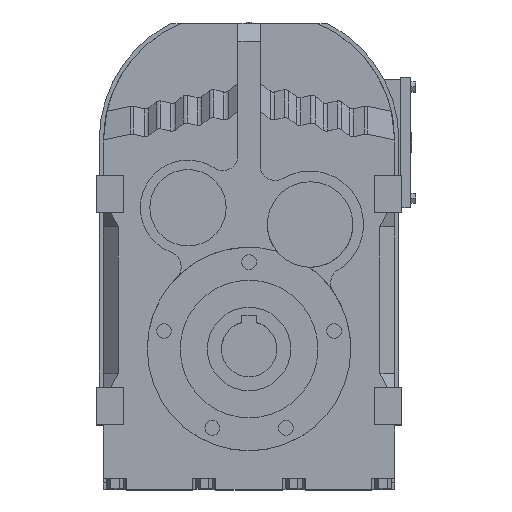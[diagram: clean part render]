
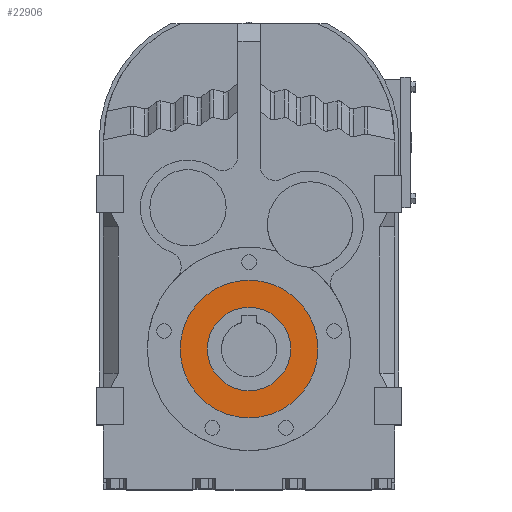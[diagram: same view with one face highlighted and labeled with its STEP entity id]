
A CAD part, top view. The second image highlights one B-rep face of the part: STEP entity #22906.
In plain terms, the highlighted planar face has unit normal (0, 0, 1).
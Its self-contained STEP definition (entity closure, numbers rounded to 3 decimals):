
#21474 = CYLINDRICAL_SURFACE('',#21475,37.2);
#21475 = AXIS2_PLACEMENT_3D('',#21476,#21477,#21478);
#21476 = CARTESIAN_POINT('',(0.,-112.,110.123));
#21477 = DIRECTION('',(0.,0.,1.));
#21478 = DIRECTION('',(1.,0.,0.));
#21500 = CYLINDRICAL_SURFACE('',#21501,37.2);
#21501 = AXIS2_PLACEMENT_3D('',#21502,#21503,#21504);
#21502 = CARTESIAN_POINT('',(0.,-112.,110.123));
#21503 = DIRECTION('',(0.,0.,1.));
#21504 = DIRECTION('',(1.,0.,0.));
#21992 = CYLINDRICAL_SURFACE('',#21993,22.5);
#21993 = AXIS2_PLACEMENT_3D('',#21994,#21995,#21996);
#21994 = CARTESIAN_POINT('',(0.,-112.,110.123));
#21995 = DIRECTION('',(0.,0.,1.));
#21996 = DIRECTION('',(1.,0.,0.));
#22022 = CYLINDRICAL_SURFACE('',#22023,22.5);
#22023 = AXIS2_PLACEMENT_3D('',#22024,#22025,#22026);
#22024 = CARTESIAN_POINT('',(0.,-112.,110.123));
#22025 = DIRECTION('',(0.,0.,1.));
#22026 = DIRECTION('',(1.,0.,0.));
#22204 = VERTEX_POINT('',#22205);
#22205 = CARTESIAN_POINT('',(-37.2,-112.,106.));
#22226 = VERTEX_POINT('',#22227);
#22227 = CARTESIAN_POINT('',(37.2,-112.,106.));
#22246 = EDGE_CURVE('',#22226,#22204,#22247,.T.);
#22247 = SURFACE_CURVE('',#22248,(#22253,#22259),.PCURVE_S1.);
#22248 = CIRCLE('',#22249,37.2);
#22249 = AXIS2_PLACEMENT_3D('',#22250,#22251,#22252);
#22250 = CARTESIAN_POINT('',(0.,-112.,106.));
#22251 = DIRECTION('',(0.,0.,1.));
#22252 = DIRECTION('',(1.,0.,0.));
#22253 = PCURVE('',#21474,#22254);
#22254 = DEFINITIONAL_REPRESENTATION('',(#22255),#22258);
#22255 = B_SPLINE_CURVE_WITH_KNOTS('',1,(#22256,#22257),.UNSPECIFIED.,
  .F.,.F.,(2,2),(0.,3.142),.PIECEWISE_BEZIER_KNOTS.);
#22256 = CARTESIAN_POINT('',(0.,-4.123));
#22257 = CARTESIAN_POINT('',(3.142,-4.123));
#22258 = ( GEOMETRIC_REPRESENTATION_CONTEXT(2) 
PARAMETRIC_REPRESENTATION_CONTEXT() REPRESENTATION_CONTEXT('2D SPACE',''
  ) );
#22259 = PCURVE('',#22260,#22265);
#22260 = PLANE('',#22261);
#22261 = AXIS2_PLACEMENT_3D('',#22262,#22263,#22264);
#22262 = CARTESIAN_POINT('',(0.,-74.8,106.));
#22263 = DIRECTION('',(0.,0.,1.));
#22264 = DIRECTION('',(1.,0.,0.));
#22265 = DEFINITIONAL_REPRESENTATION('',(#22266),#22270);
#22266 = CIRCLE('',#22267,37.2);
#22267 = AXIS2_PLACEMENT_2D('',#22268,#22269);
#22268 = CARTESIAN_POINT('',(0.,-37.2));
#22269 = DIRECTION('',(1.,0.));
#22270 = ( GEOMETRIC_REPRESENTATION_CONTEXT(2) 
PARAMETRIC_REPRESENTATION_CONTEXT() REPRESENTATION_CONTEXT('2D SPACE',''
  ) );
#22716 = EDGE_CURVE('',#22204,#22226,#22717,.T.);
#22717 = SURFACE_CURVE('',#22718,(#22723,#22729),.PCURVE_S1.);
#22718 = CIRCLE('',#22719,37.2);
#22719 = AXIS2_PLACEMENT_3D('',#22720,#22721,#22722);
#22720 = CARTESIAN_POINT('',(0.,-112.,106.));
#22721 = DIRECTION('',(0.,0.,1.));
#22722 = DIRECTION('',(1.,0.,0.));
#22723 = PCURVE('',#21500,#22724);
#22724 = DEFINITIONAL_REPRESENTATION('',(#22725),#22728);
#22725 = B_SPLINE_CURVE_WITH_KNOTS('',1,(#22726,#22727),.UNSPECIFIED.,
  .F.,.F.,(2,2),(3.142,6.283),.PIECEWISE_BEZIER_KNOTS.);
#22726 = CARTESIAN_POINT('',(3.142,-4.123));
#22727 = CARTESIAN_POINT('',(6.283,-4.123));
#22728 = ( GEOMETRIC_REPRESENTATION_CONTEXT(2) 
PARAMETRIC_REPRESENTATION_CONTEXT() REPRESENTATION_CONTEXT('2D SPACE',''
  ) );
#22729 = PCURVE('',#22260,#22730);
#22730 = DEFINITIONAL_REPRESENTATION('',(#22731),#22735);
#22731 = CIRCLE('',#22732,37.2);
#22732 = AXIS2_PLACEMENT_2D('',#22733,#22734);
#22733 = CARTESIAN_POINT('',(0.,-37.2));
#22734 = DIRECTION('',(1.,0.));
#22735 = ( GEOMETRIC_REPRESENTATION_CONTEXT(2) 
PARAMETRIC_REPRESENTATION_CONTEXT() REPRESENTATION_CONTEXT('2D SPACE',''
  ) );
#22813 = VERTEX_POINT('',#22814);
#22814 = CARTESIAN_POINT('',(22.5,-112.,106.));
#22833 = EDGE_CURVE('',#22834,#22813,#22836,.T.);
#22834 = VERTEX_POINT('',#22835);
#22835 = CARTESIAN_POINT('',(-22.5,-112.,106.));
#22836 = SURFACE_CURVE('',#22837,(#22842,#22848),.PCURVE_S1.);
#22837 = CIRCLE('',#22838,22.5);
#22838 = AXIS2_PLACEMENT_3D('',#22839,#22840,#22841);
#22839 = CARTESIAN_POINT('',(0.,-112.,106.));
#22840 = DIRECTION('',(0.,0.,1.));
#22841 = DIRECTION('',(1.,0.,0.));
#22842 = PCURVE('',#22022,#22843);
#22843 = DEFINITIONAL_REPRESENTATION('',(#22844),#22847);
#22844 = B_SPLINE_CURVE_WITH_KNOTS('',1,(#22845,#22846),.UNSPECIFIED.,
  .F.,.F.,(2,2),(3.142,6.283),.PIECEWISE_BEZIER_KNOTS.);
#22845 = CARTESIAN_POINT('',(3.142,-4.123));
#22846 = CARTESIAN_POINT('',(6.283,-4.123));
#22847 = ( GEOMETRIC_REPRESENTATION_CONTEXT(2) 
PARAMETRIC_REPRESENTATION_CONTEXT() REPRESENTATION_CONTEXT('2D SPACE',''
  ) );
#22848 = PCURVE('',#22260,#22849);
#22849 = DEFINITIONAL_REPRESENTATION('',(#22850),#22854);
#22850 = CIRCLE('',#22851,22.5);
#22851 = AXIS2_PLACEMENT_2D('',#22852,#22853);
#22852 = CARTESIAN_POINT('',(0.,-37.2));
#22853 = DIRECTION('',(1.,0.));
#22854 = ( GEOMETRIC_REPRESENTATION_CONTEXT(2) 
PARAMETRIC_REPRESENTATION_CONTEXT() REPRESENTATION_CONTEXT('2D SPACE',''
  ) );
#22879 = EDGE_CURVE('',#22813,#22834,#22880,.T.);
#22880 = SURFACE_CURVE('',#22881,(#22886,#22892),.PCURVE_S1.);
#22881 = CIRCLE('',#22882,22.5);
#22882 = AXIS2_PLACEMENT_3D('',#22883,#22884,#22885);
#22883 = CARTESIAN_POINT('',(0.,-112.,106.));
#22884 = DIRECTION('',(0.,0.,1.));
#22885 = DIRECTION('',(1.,0.,0.));
#22886 = PCURVE('',#21992,#22887);
#22887 = DEFINITIONAL_REPRESENTATION('',(#22888),#22891);
#22888 = B_SPLINE_CURVE_WITH_KNOTS('',1,(#22889,#22890),.UNSPECIFIED.,
  .F.,.F.,(2,2),(0.,3.142),.PIECEWISE_BEZIER_KNOTS.);
#22889 = CARTESIAN_POINT('',(0.,-4.123));
#22890 = CARTESIAN_POINT('',(3.142,-4.123));
#22891 = ( GEOMETRIC_REPRESENTATION_CONTEXT(2) 
PARAMETRIC_REPRESENTATION_CONTEXT() REPRESENTATION_CONTEXT('2D SPACE',''
  ) );
#22892 = PCURVE('',#22260,#22893);
#22893 = DEFINITIONAL_REPRESENTATION('',(#22894),#22898);
#22894 = CIRCLE('',#22895,22.5);
#22895 = AXIS2_PLACEMENT_2D('',#22896,#22897);
#22896 = CARTESIAN_POINT('',(0.,-37.2));
#22897 = DIRECTION('',(1.,0.));
#22898 = ( GEOMETRIC_REPRESENTATION_CONTEXT(2) 
PARAMETRIC_REPRESENTATION_CONTEXT() REPRESENTATION_CONTEXT('2D SPACE',''
  ) );
#22906 = ADVANCED_FACE('',(#22907,#22911),#22260,.T.);
#22907 = FACE_BOUND('',#22908,.T.);
#22908 = EDGE_LOOP('',(#22909,#22910));
#22909 = ORIENTED_EDGE('',*,*,#22246,.T.);
#22910 = ORIENTED_EDGE('',*,*,#22716,.T.);
#22911 = FACE_BOUND('',#22912,.T.);
#22912 = EDGE_LOOP('',(#22913,#22914));
#22913 = ORIENTED_EDGE('',*,*,#22879,.F.);
#22914 = ORIENTED_EDGE('',*,*,#22833,.F.);
